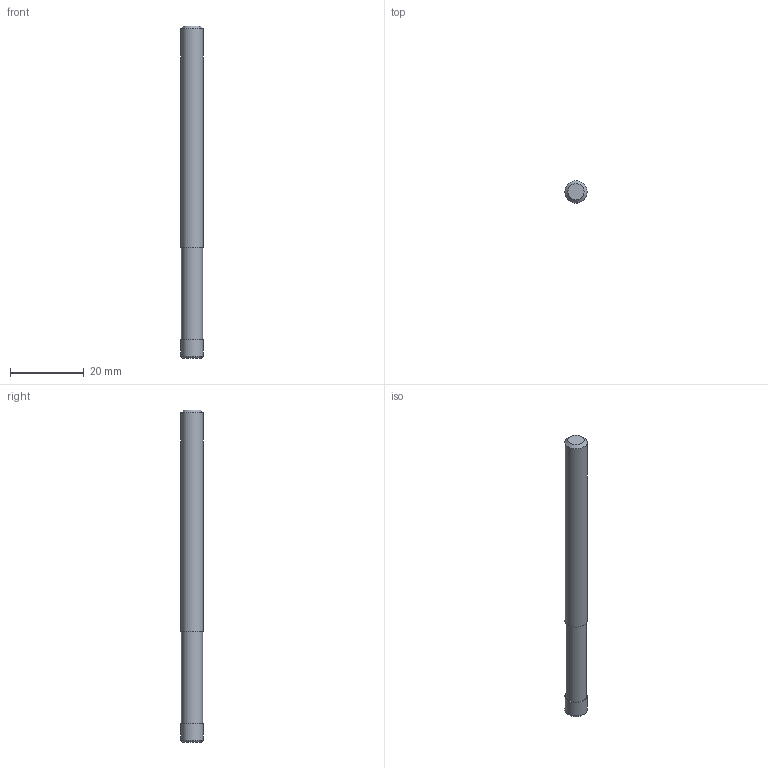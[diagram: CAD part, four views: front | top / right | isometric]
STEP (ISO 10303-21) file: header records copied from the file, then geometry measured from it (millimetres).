
FILE_DESCRIPTION((''),'2;1');
FILE_NAME('C:\Users\nsx150\AppData\Local\Temp\Mastercam 2021\CSMVKW3037\TEMP.step','2023-06-23T16:05:32',(''),(''),'STEP Write','Mastercam 2021 ... CNC Software, Inc.','');
FILE_SCHEMA(('AUTOMOTIVE_DESIGN'));
Length unit declared in the file: millimetre
Products named in the file (1): None
Bounding box: 6 x 6 x 90 mm (x, y, z)
Volume: 2469.3 mm3; surface area: 1772.2 mm2
Topology: 2 solids, 2 shells, 10 faces, 13 edges, 8 vertices
Faces by surface type: plane 5, cylinder 3, torus 1, cone 1
Full cylindrical faces by diameter (mm): 5.7 x1, 6 x2
Entity records: 232 total; most frequent: DIRECTION 40, CARTESIAN_POINT 28, AXIS2_PLACEMENT_3D 20, ORIENTED_EDGE 16, EDGE_LOOP 16, STYLED_ITEM 13, ADVANCED_FACE 10, FACE_BOUND 10
